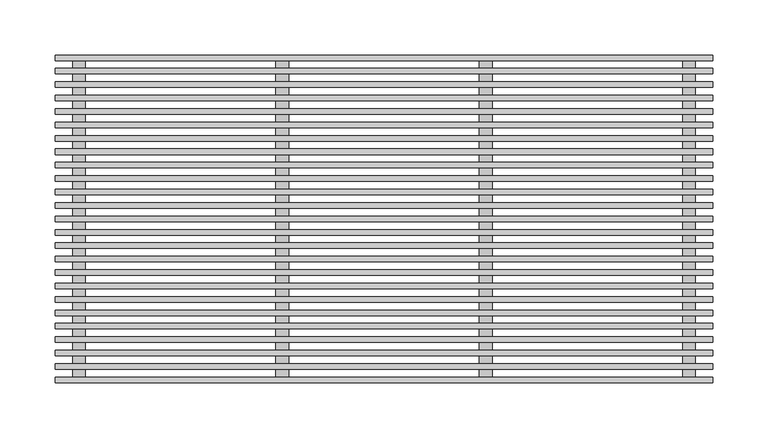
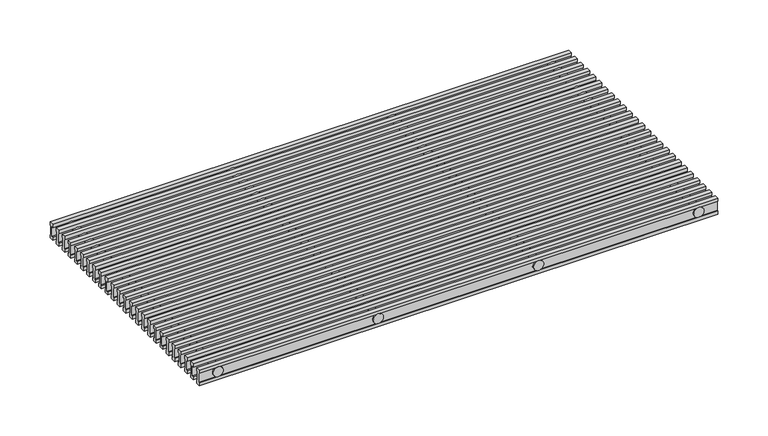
"""IFC4 building model written with IfcOpenShell, lengths in millimetres: proxy geometry, ♦ : РАП_Алюминиевая продольная/ Белый RAL 9016."""

import ifcopenshell
import ifcopenshell.guid

model = None  # the IFC model being written
_history = None  # IfcOwnerHistory: only IFC2X3 demands one
_inside = {}  # id of a spatial element -> (the spatial element, [elements in it])
_under = {}  # id of a project, library or spatial element -> (it, [spatial elements below it])
_declared = {}  # id of a project -> (the project, [libraries it declares])
_typed = {}  # id of a type object -> (the type object, [elements of that type])
_made_of = {}  # id of a material, layer set ... -> (it, [elements and type objects made of it])


def new_model(schema):
    """Start an empty IFC model of exactly this schema.

    Asked for "IFC4X3", IfcOpenShell would pick the latest addendum, in which some entities
    have other attributes; the version numbers below select the first issue.
    IFC2X3 requires an IfcOwnerHistory on every rooted entity: one is made here for all.
    """
    global model, _history
    if schema == "IFC4X3":
        model = ifcopenshell.file(schema_version=(4, 3, 0, 0))
    else:
        model = ifcopenshell.file(schema=schema)
    _inside.clear()
    _under.clear()
    _declared.clear()
    _typed.clear()
    _made_of.clear()
    _history = None
    if model.schema == "IFC2X3":
        org = make("IfcOrganization", Name="unknown")
        user = make(
            "IfcPersonAndOrganization",
            ThePerson=make("IfcPerson", FamilyName="unknown"),
            TheOrganization=org,
        )
        app = make(
            "IfcApplication",
            ApplicationDeveloper=org,
            Version="unknown",
            ApplicationFullName="unknown",
            ApplicationIdentifier="unknown",
        )
        _history = make(
            "IfcOwnerHistory",
            OwningUser=user,
            OwningApplication=app,
            ChangeAction="ADDED",
            CreationDate=0,
        )
    return model


def make(cls, **values):
    """One entity of the class cls with the attributes given. An attribute that is None is left unset."""
    return model.create_entity(
        cls, **{name: value for name, value in values.items() if value is not None}
    )


def rooted(cls, **values):
    """An entity with a GlobalId (a new one), such as an element, a storey or a relation."""
    return make(cls, GlobalId=ifcopenshell.guid.new(), OwnerHistory=_history, **values)


def si_unit(unit_type, name, prefix=None):
    """IfcSIUnit, for example si_unit("LENGTHUNIT", "METRE", prefix="MILLI")."""
    return make("IfcSIUnit", UnitType=unit_type, Prefix=prefix, Name=name)


def assignment(units):
    """IfcUnitAssignment: the units of a project."""
    return None if units is None else make("IfcUnitAssignment", Units=units)


def point(xyz):
    """IfcCartesianPoint."""
    return None if xyz is None else make("IfcCartesianPoint", Coordinates=xyz)


def direction(xyz):
    """IfcDirection."""
    return None if xyz is None else make("IfcDirection", DirectionRatios=xyz)


def frame(location, z_axis=None, x_axis=None):
    """IfcAxis2Placement3D, a coordinate frame: its origin and axes. An axis left out is left unset."""
    return make(
        "IfcAxis2Placement3D",
        Location=point(location),
        Axis=direction(z_axis),
        RefDirection=direction(x_axis),
    )


def frame_2d(location, x_axis=None):
    """IfcAxis2Placement2D, a coordinate frame in the plane: its origin and x axis."""
    return make(
        "IfcAxis2Placement2D", Location=point(location), RefDirection=direction(x_axis)
    )


def origin():
    """The frame at (0, 0, 0) with its axes left unset."""
    return frame((0.0, 0.0, 0.0))


def place(relative_to, where):
    """IfcLocalPlacement: puts the frame where relative to a parent placement (None: the world)."""
    return make(
        "IfcLocalPlacement", PlacementRelTo=relative_to, RelativePlacement=where
    )


def context(
    kind, dimensions, precision=None, world=None, true_north=None, identifier=None
):
    """IfcGeometricRepresentationContext, for example the 3D "Model" context."""
    return make(
        "IfcGeometricRepresentationContext",
        ContextIdentifier=identifier,
        ContextType=kind,
        CoordinateSpaceDimension=dimensions,
        Precision=precision,
        WorldCoordinateSystem=world,
        TrueNorth=true_north,
    )


def project(units=None, contexts=None):
    """IfcProject with its units and contexts."""
    return rooted(
        "IfcProject",
        Name="project",
        RepresentationContexts=contexts,
        UnitsInContext=assignment(units),
    )


def spatial(cls, under=None, at=None, **own):
    """A site, building, storey or space (cls), placed at a placement, below another one or the project."""
    s = rooted(cls, ObjectPlacement=at, **own)
    if under is not None:
        _under.setdefault(under.id(), (under, []))[1].append(s)
    return s


def polyline(points):
    """IfcPolyline through the points."""
    return make("IfcPolyline", Points=[point(p) for p in points])


def circle_curve(where, radius):
    """IfcCircle in the frame where."""
    return make("IfcCircle", Position=where, Radius=radius)


def trimmed(basis, trim1, trim2, sense, master):
    """IfcTrimmedCurve: the piece of a basis curve between two trims."""
    return make(
        "IfcTrimmedCurve",
        BasisCurve=basis,
        Trim1=trim1,
        Trim2=trim2,
        SenseAgreement=sense,
        MasterRepresentation=master,
    )


def segment(curve, same_sense, transition):
    """IfcCompositeCurveSegment."""
    return make(
        "IfcCompositeCurveSegment",
        Transition=transition,
        SameSense=same_sense,
        ParentCurve=curve,
    )


def composite_curve(segments, self_intersect=None):
    """IfcCompositeCurve: segments joined end to end."""
    return make("IfcCompositeCurve", Segments=segments, SelfIntersect=self_intersect)


def outline(outer, holes=None, kind="AREA"):
    """IfcArbitraryClosedProfileDef: a profile drawn as a closed curve; with holes, ...WithVoids."""
    if holes is None:
        return make("IfcArbitraryClosedProfileDef", ProfileType=kind, OuterCurve=outer)
    return make(
        "IfcArbitraryProfileDefWithVoids",
        ProfileType=kind,
        OuterCurve=outer,
        InnerCurves=holes,
    )


def extrude(swept, where, along, depth):
    """IfcExtrudedAreaSolid: the profile swept, set in the frame where, extruded along a direction by depth."""
    return make(
        "IfcExtrudedAreaSolid",
        SweptArea=swept,
        Position=where,
        ExtrudedDirection=direction(along),
        Depth=depth,
    )


def shape(context_of_items, identifier, shape_type, items):
    """IfcShapeRepresentation: the items that make up one representation, for example the "Body"."""
    return make(
        "IfcShapeRepresentation",
        ContextOfItems=context_of_items,
        RepresentationIdentifier=identifier,
        RepresentationType=shape_type,
        Items=items,
    )


def source(mapping_origin, context_of_items, identifier, shape_type, items):
    """IfcRepresentationMap: a shape defined once, which mapped items show again and again."""
    return make(
        "IfcRepresentationMap",
        MappingOrigin=mapping_origin,
        MappedRepresentation=shape(context_of_items, identifier, shape_type, items),
    )


def transform(
    local_origin,
    x_axis=None,
    y_axis=None,
    z_axis=None,
    scale=None,
    scale2=None,
    scale3=None,
    uniform=True,
):
    """IfcCartesianTransformationOperator3D, or its non-uniform kind. x_axis, y_axis, z_axis: its Axis1, 2, 3."""
    if uniform:
        return make(
            "IfcCartesianTransformationOperator3D",
            Axis1=direction(x_axis),
            Axis2=direction(y_axis),
            LocalOrigin=point(local_origin),
            Scale=scale,
            Axis3=direction(z_axis),
        )
    return make(
        "IfcCartesianTransformationOperator3DnonUniform",
        Axis1=direction(x_axis),
        Axis2=direction(y_axis),
        LocalOrigin=point(local_origin),
        Scale=scale,
        Axis3=direction(z_axis),
        Scale2=scale2,
        Scale3=scale3,
    )


def mapped(mapping_source, mapping_target):
    """IfcMappedItem: shows the shape of a source again, moved by a transform."""
    return make(
        "IfcMappedItem", MappingSource=mapping_source, MappingTarget=mapping_target
    )


def made_of(thing, what):
    """Note that an element or type object is made of a material, layer set ...; save() writes the relation."""
    if what is not None:
        _made_of.setdefault(what.id(), (what, []))[1].append(thing)
    return thing


def element(
    cls,
    number,
    at=None,
    inside=None,
    cuts=None,
    type_object=None,
    material=None,
    context=None,
    identifier="Body",
    shape_type=None,
    held_by="IfcProductDefinitionShape",
    body=None,
    shapes=None,
    **own,
):
    """One element of the class cls, such as IfcWall. Its Tag is "e" and its number.

    at: its placement. inside: the storey or other place that contains it. cuts: it is an
    opening in that element (IfcRelVoidsElement). A single representation is given by context,
    identifier, shape_type and body (its items); several are given by shapes. held_by: the class
    of the entity that holds the representations. save() writes the other relations.
    """
    e = rooted(cls, Tag="e%d" % number, ObjectPlacement=at, **own)
    if body is not None:
        shapes = [shape(context, identifier, shape_type, body)]
    if shapes is not None:
        e.Representation = make(held_by, Representations=shapes)
    if inside is not None:
        _inside.setdefault(inside.id(), (inside, []))[1].append(e)
    if cuts is not None:
        rooted(
            "IfcRelVoidsElement", RelatingBuildingElement=cuts, RelatedOpeningElement=e
        )
    if type_object is not None:
        _typed.setdefault(type_object.id(), (type_object, []))[1].append(e)
    return made_of(e, material)


def aggregate(whole, parts):
    """IfcRelAggregates: a whole, such as a stair, and the parts it consists of."""
    return rooted("IfcRelAggregates", RelatingObject=whole, RelatedObjects=parts)


def save(model, path):
    """Write the relations noted so far, then the file.

    IfcRelAggregates (storeys below a building ...), IfcRelContainedInSpatialStructure (elements
    in a storey), IfcRelDefinesByType, IfcRelAssociatesMaterial and IfcRelDeclares: one each for
    every whole, place, type object, material and project.
    """
    for whole, parts in _under.values():
        aggregate(whole, parts)
    for where, things in _inside.values():
        rooted(
            "IfcRelContainedInSpatialStructure",
            RelatedElements=things,
            RelatingStructure=where,
        )
    for kind, things in _typed.values():
        rooted("IfcRelDefinesByType", RelatedObjects=things, RelatingType=kind)
    for what, things in _made_of.values():
        rooted("IfcRelAssociatesMaterial", RelatedObjects=things, RelatingMaterial=what)
    for by, libraries in _declared.values():
        rooted("IfcRelDeclares", RelatingContext=by, RelatedDefinitions=libraries)
    model.write(path)


def mechanical_equipment_2ccabaea(model_context):
    return source(origin(), model_context, "Body", "SweptSolid", [
        extrude(outline(polyline([(-131.6083333, 0.0), (-131.6083333, -3.86), (-132.8583333, -3.86), (-132.8583333, -15.44), (-131.6083333, -15.44), (-131.6083333, -19.3), (-136.6083333, -19.3), (-136.6083333, -15.44), (-135.3583333, -15.44), (-135.3583333, -3.86), (-136.6083333, -3.86), (-136.6083333, 0.0), (-131.6083333, 0.0)])), frame((1.2, 0.0, 0.0), z_axis=(1.0, 0.0, 0.0), x_axis=(0.0, 1.0, 0.0)), (0.0, 0.0, 1.0), 597.6),
        extrude(outline(polyline([(-119.4166667, 0.0), (-119.4166667, -3.86), (-120.6666667, -3.86), (-120.6666667, -15.44), (-119.4166667, -15.44), (-119.4166667, -19.3), (-124.4166667, -19.3), (-124.4166667, -15.44), (-123.1666667, -15.44), (-123.1666667, -3.86), (-124.4166667, -3.86), (-124.4166667, 0.0), (-119.4166667, 0.0)])), frame((1.2, 0.0, 0.0), z_axis=(1.0, 0.0, 0.0), x_axis=(0.0, 1.0, 0.0)), (0.0, 0.0, 1.0), 597.6),
        extrude(outline(polyline([(-107.225, 0.0), (-107.225, -3.86), (-108.475, -3.86), (-108.475, -15.44), (-107.225, -15.44), (-107.225, -19.3), (-112.225, -19.3), (-112.225, -15.44), (-110.975, -15.44), (-110.975, -3.86), (-112.225, -3.86), (-112.225, 0.0), (-107.225, 0.0)])), frame((1.2, 0.0, 0.0), z_axis=(1.0, 0.0, 0.0), x_axis=(0.0, 1.0, 0.0)), (0.0, 0.0, 1.0), 597.6),
        extrude(outline(polyline([(-95.0333333, 0.0), (-95.0333333, -3.86), (-96.2833333, -3.86), (-96.2833333, -15.44), (-95.0333333, -15.44), (-95.0333333, -19.3), (-100.0333333, -19.3), (-100.0333333, -15.44), (-98.7833333, -15.44), (-98.7833333, -3.86), (-100.0333333, -3.86), (-100.0333333, 0.0), (-95.0333333, 0.0)])), frame((1.2, 0.0, 0.0), z_axis=(1.0, 0.0, 0.0), x_axis=(0.0, 1.0, 0.0)), (0.0, 0.0, 1.0), 597.6),
        extrude(outline(polyline([(-82.8416667, 0.0), (-82.8416667, -3.86), (-84.0916667, -3.86), (-84.0916667, -15.44), (-82.8416667, -15.44), (-82.8416667, -19.3), (-87.8416667, -19.3), (-87.8416667, -15.44), (-86.5916667, -15.44), (-86.5916667, -3.86), (-87.8416667, -3.86), (-87.8416667, 0.0), (-82.8416667, 0.0)])), frame((1.2, 0.0, 0.0), z_axis=(1.0, 0.0, 0.0), x_axis=(0.0, 1.0, 0.0)), (0.0, 0.0, 1.0), 597.6),
        extrude(outline(polyline([(-70.65, 0.0), (-70.65, -3.86), (-71.9, -3.86), (-71.9, -15.44), (-70.65, -15.44), (-70.65, -19.3), (-75.65, -19.3), (-75.65, -15.44), (-74.4, -15.44), (-74.4, -3.86), (-75.65, -3.86), (-75.65, 0.0), (-70.65, 0.0)])), frame((1.2, 0.0, 0.0), z_axis=(1.0, 0.0, 0.0), x_axis=(0.0, 1.0, 0.0)), (0.0, 0.0, 1.0), 597.6),
        extrude(outline(polyline([(-58.4583333, 0.0), (-58.4583333, -3.86), (-59.7083333, -3.86), (-59.7083333, -15.44), (-58.4583333, -15.44), (-58.4583333, -19.3), (-63.4583333, -19.3), (-63.4583333, -15.44), (-62.2083333, -15.44), (-62.2083333, -3.86), (-63.4583333, -3.86), (-63.4583333, 0.0), (-58.4583333, 0.0)])), frame((1.2, 0.0, 0.0), z_axis=(1.0, 0.0, 0.0), x_axis=(0.0, 1.0, 0.0)), (0.0, 0.0, 1.0), 597.6),
        extrude(outline(polyline([(-46.2666667, 0.0), (-46.2666667, -3.86), (-47.5166667, -3.86), (-47.5166667, -15.44), (-46.2666667, -15.44), (-46.2666667, -19.3), (-51.2666667, -19.3), (-51.2666667, -15.44), (-50.0166667, -15.44), (-50.0166667, -3.86), (-51.2666667, -3.86), (-51.2666667, 0.0), (-46.2666667, 0.0)])), frame((1.2, 0.0, 0.0), z_axis=(1.0, 0.0, 0.0), x_axis=(0.0, 1.0, 0.0)), (0.0, 0.0, 1.0), 597.6),
        extrude(outline(polyline([(-34.075, 0.0), (-34.075, -3.86), (-35.325, -3.86), (-35.325, -15.44), (-34.075, -15.44), (-34.075, -19.3), (-39.075, -19.3), (-39.075, -15.44), (-37.825, -15.44), (-37.825, -3.86), (-39.075, -3.86), (-39.075, 0.0), (-34.075, 0.0)])), frame((1.2, 0.0, 0.0), z_axis=(1.0, 0.0, 0.0), x_axis=(0.0, 1.0, 0.0)), (0.0, 0.0, 1.0), 597.6),
        extrude(outline(polyline([(-21.8833333, 0.0), (-21.8833333, -3.86), (-23.1333333, -3.86), (-23.1333333, -15.44), (-21.8833333, -15.44), (-21.8833333, -19.3), (-26.8833333, -19.3), (-26.8833333, -15.44), (-25.6333333, -15.44), (-25.6333333, -3.86), (-26.8833333, -3.86), (-26.8833333, 0.0), (-21.8833333, 0.0)])), frame((1.2, 0.0, 0.0), z_axis=(1.0, 0.0, 0.0), x_axis=(0.0, 1.0, 0.0)), (0.0, 0.0, 1.0), 597.6),
        extrude(outline(polyline([(-9.6916667, 0.0), (-9.6916667, -3.86), (-10.9416667, -3.86), (-10.9416667, -15.44), (-9.6916667, -15.44), (-9.6916667, -19.3), (-14.6916667, -19.3), (-14.6916667, -15.44), (-13.4416667, -15.44), (-13.4416667, -3.86), (-14.6916667, -3.86), (-14.6916667, 0.0), (-9.6916667, 0.0)])), frame((1.2, 0.0, 0.0), z_axis=(1.0, 0.0, 0.0), x_axis=(0.0, 1.0, 0.0)), (0.0, 0.0, 1.0), 597.6),
        extrude(outline(polyline([(2.5, 0.0), (2.5, -3.86), (1.25, -3.86), (1.25, -15.44), (2.5, -15.44), (2.5, -19.3), (-2.5, -19.3), (-2.5, -15.44), (-1.25, -15.44), (-1.25, -3.86), (-2.5, -3.86), (-2.5, 0.0), (2.5, 0.0)])), frame((1.2, 0.0, 0.0), z_axis=(1.0, 0.0, 0.0), x_axis=(0.0, 1.0, 0.0)), (0.0, 0.0, 1.0), 597.6),
        extrude(outline(polyline([(14.6916667, 0.0), (14.6916667, -3.86), (13.4416667, -3.86), (13.4416667, -15.44), (14.6916667, -15.44), (14.6916667, -19.3), (9.6916667, -19.3), (9.6916667, -15.44), (10.9416667, -15.44), (10.9416667, -3.86), (9.6916667, -3.86), (9.6916667, 0.0), (14.6916667, 0.0)])), frame((1.2, 0.0, 0.0), z_axis=(1.0, 0.0, 0.0), x_axis=(0.0, 1.0, 0.0)), (0.0, 0.0, 1.0), 597.6),
        extrude(outline(polyline([(26.8833333, 0.0), (26.8833333, -3.86), (25.6333333, -3.86), (25.6333333, -15.44), (26.8833333, -15.44), (26.8833333, -19.3), (21.8833333, -19.3), (21.8833333, -15.44), (23.1333333, -15.44), (23.1333333, -3.86), (21.8833333, -3.86), (21.8833333, 0.0), (26.8833333, 0.0)])), frame((1.2, 0.0, 0.0), z_axis=(1.0, 0.0, 0.0), x_axis=(0.0, 1.0, 0.0)), (0.0, 0.0, 1.0), 597.6),
        extrude(outline(polyline([(39.075, 0.0), (39.075, -3.86), (37.825, -3.86), (37.825, -15.44), (39.075, -15.44), (39.075, -19.3), (34.075, -19.3), (34.075, -15.44), (35.325, -15.44), (35.325, -3.86), (34.075, -3.86), (34.075, 0.0), (39.075, 0.0)])), frame((1.2, 0.0, 0.0), z_axis=(1.0, 0.0, 0.0), x_axis=(0.0, 1.0, 0.0)), (0.0, 0.0, 1.0), 597.6),
        extrude(outline(polyline([(51.2666667, 0.0), (51.2666667, -3.86), (50.0166667, -3.86), (50.0166667, -15.44), (51.2666667, -15.44), (51.2666667, -19.3), (46.2666667, -19.3), (46.2666667, -15.44), (47.5166667, -15.44), (47.5166667, -3.86), (46.2666667, -3.86), (46.2666667, 0.0), (51.2666667, 0.0)])), frame((1.2, 0.0, 0.0), z_axis=(1.0, 0.0, 0.0), x_axis=(0.0, 1.0, 0.0)), (0.0, 0.0, 1.0), 597.6),
        extrude(outline(polyline([(63.4583333, 0.0), (63.4583333, -3.86), (62.2083333, -3.86), (62.2083333, -15.44), (63.4583333, -15.44), (63.4583333, -19.3), (58.4583333, -19.3), (58.4583333, -15.44), (59.7083333, -15.44), (59.7083333, -3.86), (58.4583333, -3.86), (58.4583333, 0.0), (63.4583333, 0.0)])), frame((1.2, 0.0, 0.0), z_axis=(1.0, 0.0, 0.0), x_axis=(0.0, 1.0, 0.0)), (0.0, 0.0, 1.0), 597.6),
        extrude(outline(composite_curve([segment(trimmed(circle_curve(frame_2d((-9.6, 392.3333333)), 5.8), [point((-9.6, 386.5333333))], [point((-9.6, 398.1333333))], False, "CARTESIAN"), True, "CONTINUOUS"), segment(trimmed(circle_curve(frame_2d((-9.6, 392.3333333)), 5.8), [point((-9.6, 398.1333333))], [point((-9.6, 386.5333333))], False, "CARTESIAN"), True, "CONTINUOUS")], self_intersect=False)), frame((0.0, -148.8, 0.0), z_axis=(0.0, 1.0, 0.0), x_axis=(0.0, 0.0, 1.0)), (0.0, 0.0, 1.0), 297.6),
        extrude(outline(composite_curve([segment(trimmed(circle_curve(frame_2d((-9.6, 207.6666667)), 5.8), [point((-9.6, 201.8666667))], [point((-9.6, 213.4666667))], False, "CARTESIAN"), True, "CONTINUOUS"), segment(trimmed(circle_curve(frame_2d((-9.6, 207.6666667)), 5.8), [point((-9.6, 213.4666667))], [point((-9.6, 201.8666667))], False, "CARTESIAN"), True, "CONTINUOUS")], self_intersect=False)), frame((0.0, -148.8, 0.0), z_axis=(0.0, 1.0, 0.0), x_axis=(0.0, 0.0, 1.0)), (0.0, 0.0, 1.0), 297.6),
        extrude(outline(composite_curve([segment(trimmed(circle_curve(frame_2d((-9.6, 577.0)), 5.8), [point((-9.6, 571.2))], [point((-9.6, 582.8))], False, "CARTESIAN"), True, "CONTINUOUS"), segment(trimmed(circle_curve(frame_2d((-9.6, 577.0)), 5.8), [point((-9.6, 582.8))], [point((-9.6, 571.2))], False, "CARTESIAN"), True, "CONTINUOUS")], self_intersect=False)), frame((0.0, -148.8, 0.0), z_axis=(0.0, 1.0, 0.0), x_axis=(0.0, 0.0, 1.0)), (0.0, 0.0, 1.0), 297.6),
        extrude(outline(composite_curve([segment(trimmed(circle_curve(frame_2d((-9.6, 23.0)), 5.8), [point((-9.6, 17.2))], [point((-9.6, 28.8))], False, "CARTESIAN"), True, "CONTINUOUS"), segment(trimmed(circle_curve(frame_2d((-9.6, 23.0)), 5.8), [point((-9.6, 28.8))], [point((-9.6, 17.2))], False, "CARTESIAN"), True, "CONTINUOUS")], self_intersect=False)), frame((0.0, -148.8, 0.0), z_axis=(0.0, 1.0, 0.0), x_axis=(0.0, 0.0, 1.0)), (0.0, 0.0, 1.0), 297.6),
        extrude(outline(polyline([(75.65, 0.0), (75.65, -3.86), (74.4, -3.86), (74.4, -15.44), (75.65, -15.44), (75.65, -19.3), (70.65, -19.3), (70.65, -15.44), (71.9, -15.44), (71.9, -3.86), (70.65, -3.86), (70.65, 0.0), (75.65, 0.0)])), frame((1.2, 0.0, 0.0), z_axis=(1.0, 0.0, 0.0), x_axis=(0.0, 1.0, 0.0)), (0.0, 0.0, 1.0), 597.6),
        extrude(outline(polyline([(87.8416667, 0.0), (87.8416667, -3.86), (86.5916667, -3.86), (86.5916667, -15.44), (87.8416667, -15.44), (87.8416667, -19.3), (82.8416667, -19.3), (82.8416667, -15.44), (84.0916667, -15.44), (84.0916667, -3.86), (82.8416667, -3.86), (82.8416667, 0.0), (87.8416667, 0.0)])), frame((1.2, 0.0, 0.0), z_axis=(1.0, 0.0, 0.0), x_axis=(0.0, 1.0, 0.0)), (0.0, 0.0, 1.0), 597.6),
        extrude(outline(polyline([(100.0333333, 0.0), (100.0333333, -3.86), (98.7833333, -3.86), (98.7833333, -15.44), (100.0333333, -15.44), (100.0333333, -19.3), (95.0333333, -19.3), (95.0333333, -15.44), (96.2833333, -15.44), (96.2833333, -3.86), (95.0333333, -3.86), (95.0333333, 0.0), (100.0333333, 0.0)])), frame((1.2, 0.0, 0.0), z_axis=(1.0, 0.0, 0.0), x_axis=(0.0, 1.0, 0.0)), (0.0, 0.0, 1.0), 597.6),
        extrude(outline(polyline([(112.225, 0.0), (112.225, -3.86), (110.975, -3.86), (110.975, -15.44), (112.225, -15.44), (112.225, -19.3), (107.225, -19.3), (107.225, -15.44), (108.475, -15.44), (108.475, -3.86), (107.225, -3.86), (107.225, 0.0), (112.225, 0.0)])), frame((1.2, 0.0, 0.0), z_axis=(1.0, 0.0, 0.0), x_axis=(0.0, 1.0, 0.0)), (0.0, 0.0, 1.0), 597.6),
        extrude(outline(polyline([(124.4166667, 0.0), (124.4166667, -3.86), (123.1666667, -3.86), (123.1666667, -15.44), (124.4166667, -15.44), (124.4166667, -19.3), (119.4166667, -19.3), (119.4166667, -15.44), (120.6666667, -15.44), (120.6666667, -3.86), (119.4166667, -3.86), (119.4166667, 0.0), (124.4166667, 0.0)])), frame((1.2, 0.0, 0.0), z_axis=(1.0, 0.0, 0.0), x_axis=(0.0, 1.0, 0.0)), (0.0, 0.0, 1.0), 597.6),
        extrude(outline(polyline([(136.6083333, 0.0), (136.6083333, -3.86), (135.3583333, -3.86), (135.3583333, -15.44), (136.6083333, -15.44), (136.6083333, -19.3), (131.6083333, -19.3), (131.6083333, -15.44), (132.8583333, -15.44), (132.8583333, -3.86), (131.6083333, -3.86), (131.6083333, 0.0), (136.6083333, 0.0)])), frame((1.2, 0.0, 0.0), z_axis=(1.0, 0.0, 0.0), x_axis=(0.0, 1.0, 0.0)), (0.0, 0.0, 1.0), 597.6),
        extrude(outline(polyline([(-143.8, 0.0), (-143.8, -3.86), (-145.05, -3.86), (-145.05, -15.44), (-143.8, -15.44), (-143.8, -19.3), (-148.8, -19.3), (-148.8, -15.44), (-147.55, -15.44), (-147.55, -3.86), (-148.8, -3.86), (-148.8, 0.0), (-143.8, 0.0)])), frame((1.2, 0.0, 0.0), z_axis=(1.0, 0.0, 0.0), x_axis=(0.0, 1.0, 0.0)), (0.0, 0.0, 1.0), 597.6),
        extrude(outline(polyline([(148.8, 0.0), (148.8, -3.86), (147.55, -3.86), (147.55, -15.44), (148.8, -15.44), (148.8, -19.3), (143.8, -19.3), (143.8, -15.44), (145.05, -15.44), (145.05, -3.86), (143.8, -3.86), (143.8, 0.0), (148.8, 0.0)])), frame((1.2, 0.0, 0.0), z_axis=(1.0, 0.0, 0.0), x_axis=(0.0, 1.0, 0.0)), (0.0, 0.0, 1.0), 597.6),
    ])


if __name__ == "__main__":
    model = new_model("IFC4")
    model_context = context("Model", 3, world=origin())
    ifc_project = project(units=[si_unit("LENGTHUNIT", "METRE", prefix="MILLI")], contexts=[model_context])
    site = spatial("IfcSite", under=ifc_project)
    building = spatial("IfcBuilding", under=site)
    placement = place(None, origin())
    mechanical_equipment_shape = mechanical_equipment_2ccabaea(model_context)
    element("IfcBuildingElementProxy", 1, Name="♦ : РАП_Алюминиевая продольная/ Белый RAL 9016", ObjectType="♦ : РАП_Алюминиевая продольная/ Белый RAL 9016", at=placement, inside=building, context=model_context, shape_type="MappedRepresentation", body=[
        mapped(mechanical_equipment_shape, transform((0.0, 0.0, 0.0), x_axis=(1.0, 0.0, 0.0), y_axis=(0.0, 1.0, 0.0), z_axis=(0.0, 0.0, 1.0))),
    ])
    save(model, "model.ifc")
